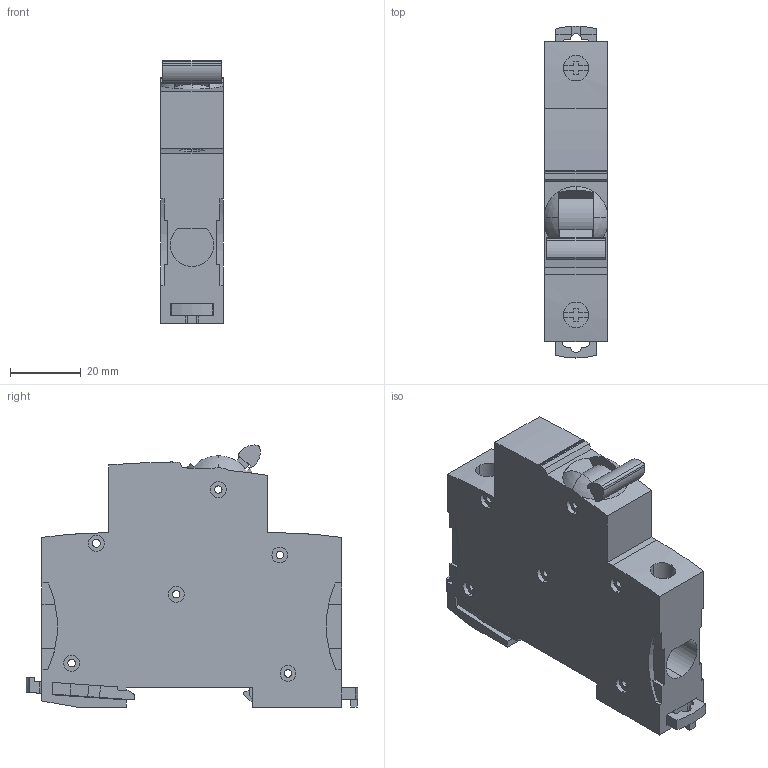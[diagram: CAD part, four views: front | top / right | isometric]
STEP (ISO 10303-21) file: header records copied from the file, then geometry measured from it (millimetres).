
FILE_DESCRIPTION(('STEP AP214'),'1');
FILE_NAME(' ',' ',('TraceParts'),('TraceParts S.A.'),'XStep 1.0',' ',' ');
FILE_SCHEMA(('automotive_design'));
Length unit declared in the file: millimetre
Products named in the file (6): SB100442_S_ASM|Next assembly relationship;COQUE_PRINCIPALE_1P; SB100442_S_ASM|Next assembly relationship;MANETTE_1; SB100442_S_ASM|Next assembly relationship;CLIP_2; SB100442_S_ASM|Next assembly relationship;CLIP_1; SB100442_S_ASM|Next assembly relationship;VIS_7_2
Bounding box: 17.7 x 93.9 x 74.13 mm (x, y, z)
Volume: 80399.4 mm3; surface area: 22721.5 mm2
Topology: 6 solids, 6 shells, 368 faces, 1028 edges, 684 vertices
Faces by surface type: plane 258, cylinder 106, sphere 4
Entity records: 12081 total; most frequent: CARTESIAN_POINT 2268, ORIENTED_EDGE 2056, DIRECTION 1996, EDGE_CURVE 1028, LINE 770, VECTOR 770, VERTEX_POINT 684, AXIS2_PLACEMENT_3D 613
